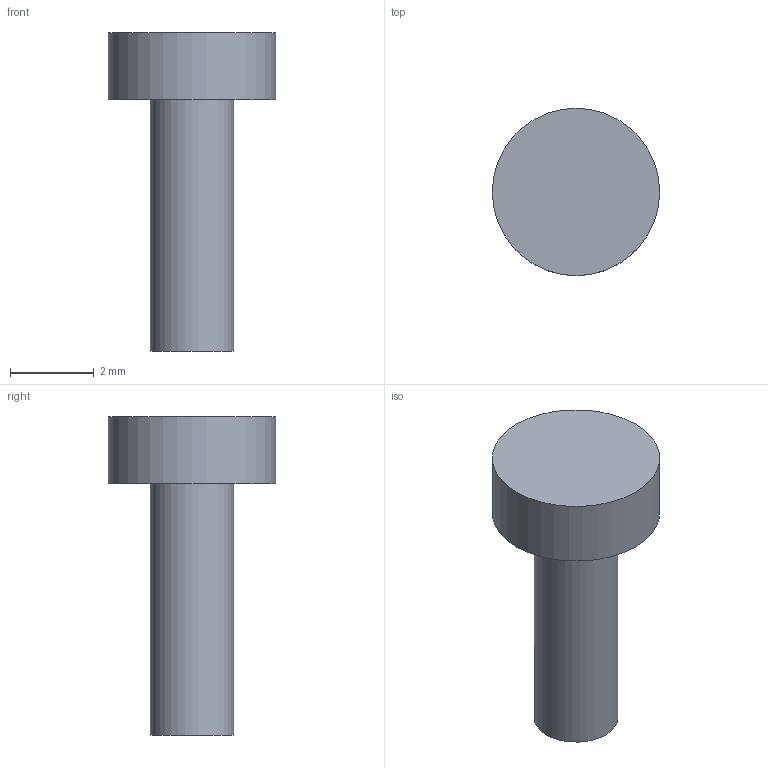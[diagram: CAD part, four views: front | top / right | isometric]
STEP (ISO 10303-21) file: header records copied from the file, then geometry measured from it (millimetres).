
FILE_DESCRIPTION(('Open CASCADE Model'),'2;1');
FILE_NAME('Open CASCADE Shape Model','2026-09-15T13:49:33',('Author'),( 'Open CASCADE'),'Open CASCADE STEP processor 7.7','Open CASCADE 7.7' ,'Unknown');
FILE_SCHEMA(('AUTOMOTIVE_DESIGN { 1 0 10303 214 1 1 1 1 }'));
Length unit declared in the file: millimetre
Products named in the file (1): SOLID
Bounding box: 4 x 4 x 7.6 mm (x, y, z)
Volume: 39 mm3; surface area: 82.9 mm2
Topology: 1 solids, 1 shells, 5 faces, 6 edges, 4 vertices
Faces by surface type: plane 3, cylinder 2
Full cylindrical faces by diameter (mm): 2 x1, 4 x1
Entity records: 192 total; most frequent: DIRECTION 34, CARTESIAN_POINT 28, ORIENTED_EDGE 12, PCURVE 12, DEFINITIONAL_REPRESENTATION 12, AXIS2_PLACEMENT_3D 10, LINE 10, VECTOR 10
